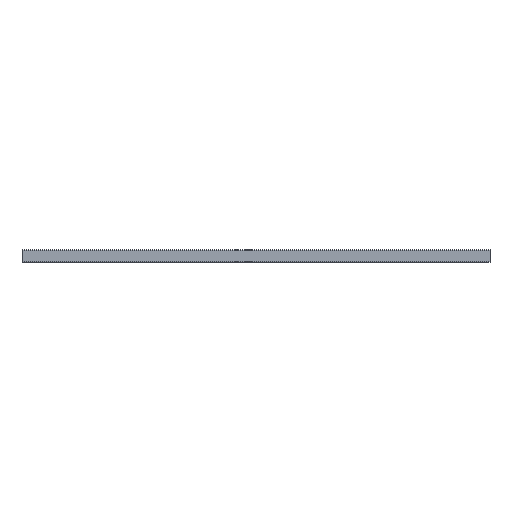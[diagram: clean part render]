
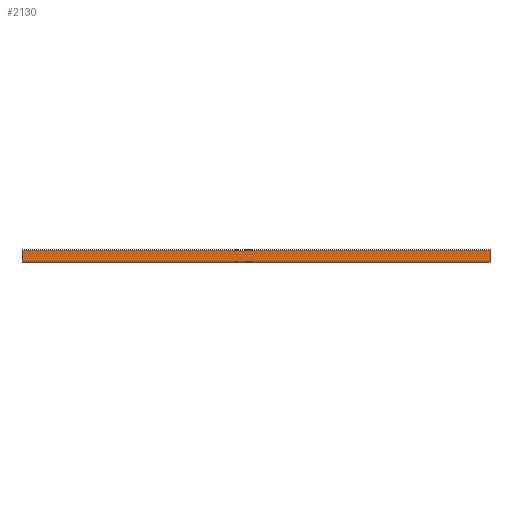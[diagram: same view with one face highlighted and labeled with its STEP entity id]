
A CAD part, front view. The second image highlights one B-rep face of the part: STEP entity #2130.
In plain terms, the highlighted planar face has unit normal (0, -1, 0).
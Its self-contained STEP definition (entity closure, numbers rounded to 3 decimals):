
#188=FACE_OUTER_BOUND('',#302,.T.);
#302=EDGE_LOOP('',(#1565,#1566,#1567,#1568));
#472=LINE('',#3166,#710);
#473=LINE('',#3169,#711);
#474=LINE('',#3171,#712);
#475=LINE('',#3172,#713);
#710=VECTOR('',#2609,10.);
#711=VECTOR('',#2612,10.);
#712=VECTOR('',#2613,10.);
#713=VECTOR('',#2614,10.);
#937=VERTEX_POINT('',#3162);
#938=VERTEX_POINT('',#3164);
#939=VERTEX_POINT('',#3168);
#940=VERTEX_POINT('',#3170);
#1194=EDGE_CURVE('',#937,#938,#472,.T.);
#1195=EDGE_CURVE('',#939,#937,#473,.T.);
#1196=EDGE_CURVE('',#940,#938,#474,.T.);
#1197=EDGE_CURVE('',#939,#940,#475,.T.);
#1565=ORIENTED_EDGE('',*,*,#1195,.T.);
#1566=ORIENTED_EDGE('',*,*,#1194,.T.);
#1567=ORIENTED_EDGE('',*,*,#1196,.F.);
#1568=ORIENTED_EDGE('',*,*,#1197,.F.);
#2041=PLANE('',#2289);
#2130=ADVANCED_FACE('',(#188),#2041,.T.);
#2289=AXIS2_PLACEMENT_3D('',#3167,#2610,#2611);
#2609=DIRECTION('',(1.,0.,0.));
#2610=DIRECTION('center_axis',(0.,-1.,0.));
#2611=DIRECTION('ref_axis',(0.,0.,-1.));
#2612=DIRECTION('',(0.,0.,-1.));
#2613=DIRECTION('',(0.,0.,-1.));
#2614=DIRECTION('',(1.,0.,0.));
#3162=CARTESIAN_POINT('',(0.,-13.843,0.5));
#3164=CARTESIAN_POINT('',(1000.,-13.843,0.5));
#3166=CARTESIAN_POINT('',(0.,-13.843,0.5));
#3167=CARTESIAN_POINT('Origin',(0.,-13.843,25.779));
#3168=CARTESIAN_POINT('',(0.,-13.843,25.779));
#3169=CARTESIAN_POINT('',(0.,-13.843,25.779));
#3170=CARTESIAN_POINT('',(1000.,-13.843,25.779));
#3171=CARTESIAN_POINT('',(1000.,-13.843,25.779));
#3172=CARTESIAN_POINT('',(0.,-13.843,25.779));
